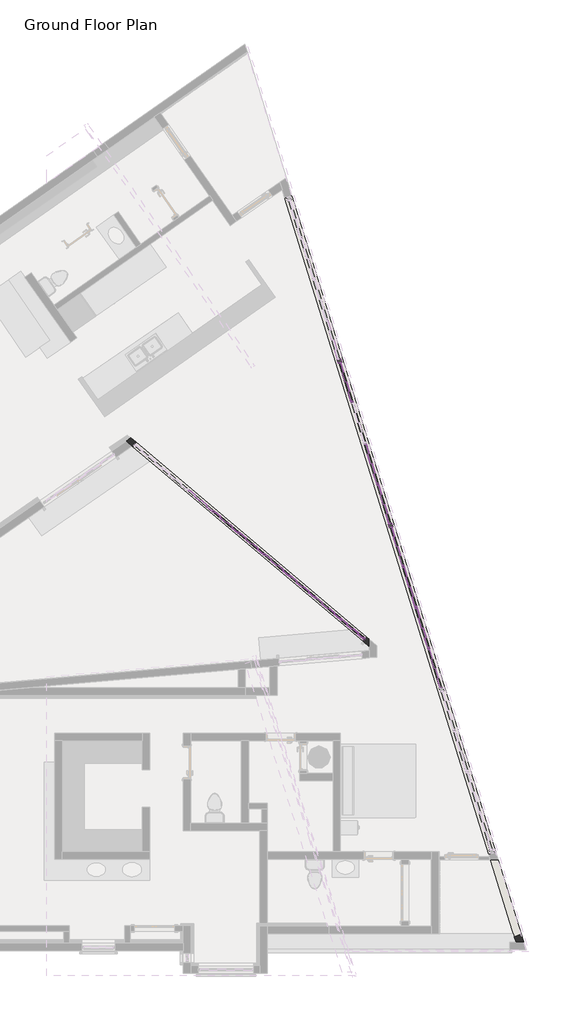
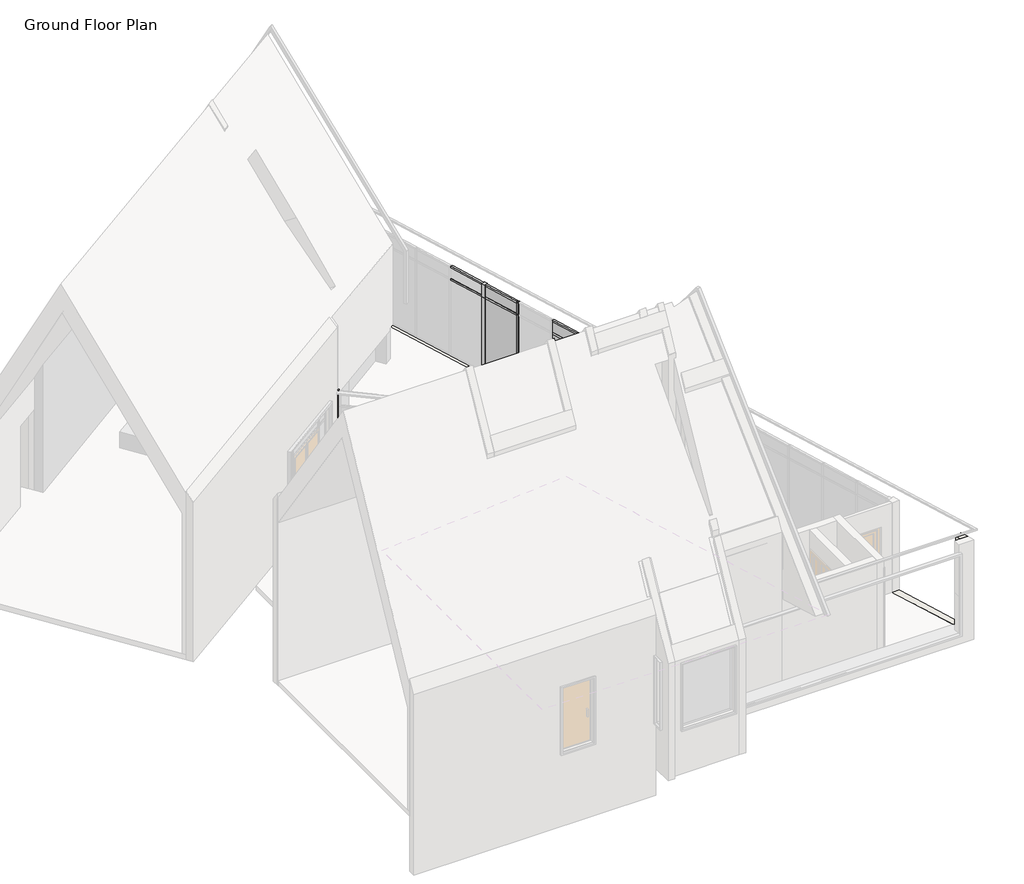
# One storey, part 4 of 5: 68 members, 25 plates, 2 walls.
"""IFC4 building model written with IfcOpenShell, lengths in millimetres."""

from ifc_helpers import new_model, si_unit, origin, place, context, project, spatial, faceted_brep, transform, mapped, element, save
from components import rectangular_mullion_50x150mm_d6dec429, rectangular_mullion_50x150mm_72788f02, rectangular_mullion_50x150mm_c05da0b8, rectangular_mullion_50x150mm_10119c83, rectangular_mullion_50x150mm_9b9afa98, rectangular_mullion_50x150mm_3dc05bec, rectangular_mullion_50x150mm_ea022c74, rectangular_mullion_50x150mm_d233cf5f, rectangular_mullion_50x150mm_e39ed394, rectangular_mullion_50x150mm_ed4077da, rectangular_mullion_50x150mm_51ed58aa, rectangular_mullion_50x150mm_58209b6d, rectangular_mullion_50x150mm_e022757b, rectangular_mullion_50x150mm_c4750289, rectangular_mullion_50x150mm_facade_da269e3a, rectangular_mullion_50x150mm_facade_010fe28e, system_panel_glazed_c5d443fe, system_panel_glazed_77f98377, system_panel_glazed_4f0944f6, system_panel_glazed_4c64ceed, system_panel_glazed_2_529b0a8b, system_panel_glazed_2_c75f6443, system_panel_opaque_e4a811f1, system_panel_opaque_66f26a5c

model = new_model("IFC4")

# Units and contexts
model_context = context("Model", 3, world=origin())
ifc_project = project(units=[si_unit("LENGTHUNIT", "METRE", prefix="MILLI")], contexts=[model_context])

# Site, building, storey
site = spatial("IfcSite", under=ifc_project)
building = spatial("IfcBuilding", under=site)
storey = spatial("IfcBuildingStorey", under=building, Name="Ground Floor Plan", Elevation=0.0)

# Members
placement = place(None, origin())
rectangular_mullion_50x150mm_shape = rectangular_mullion_50x150mm_d6dec429(model_context)
element("IfcMember", 1, ObjectType="Rectangular Mullion : 50x150mm", at=placement, inside=storey, context=model_context, shape_type="MappedRepresentation", body=[
    mapped(rectangular_mullion_50x150mm_shape, transform((5708.9394713, 4886.6123737, 150.0), x_axis=(0.0, 0.0, -1.0), y_axis=(-0.9549692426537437, -0.29670481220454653, 0.0), z_axis=(-0.29670481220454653, 0.9549692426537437, 0.0))),
])
element("IfcMember", 2, ObjectType="Rectangular Mullion : 50x150mm", at=placement, inside=storey, context=model_context, shape_type="MappedRepresentation", body=[
    mapped(rectangular_mullion_50x150mm_shape, transform((3990.3466762, 10418.0469595, 150.0), x_axis=(0.0, 0.0, -1.0), y_axis=(-0.9549692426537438, -0.2967048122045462, 0.0), z_axis=(-0.2967048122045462, 0.9549692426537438, 0.0))),
])
element("IfcMember", 3, ObjectType="Rectangular Mullion : 50x150mm", at=placement, inside=storey, context=model_context, shape_type="MappedRepresentation", body=[
    mapped(rectangular_mullion_50x150mm_shape, transform((5365.2209123, 5992.8992909, 150.0), x_axis=(0.0, 0.0, -1.0), y_axis=(-0.9549692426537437, -0.29670481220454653, 0.0), z_axis=(-0.29670481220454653, 0.9549692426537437, 0.0))),
])
rectangular_mullion_50x150mm_2_shape = rectangular_mullion_50x150mm_72788f02(model_context)
element("IfcMember", 4, ObjectType="Rectangular Mullion : 50x150mm", at=placement, inside=storey, context=model_context, shape_type="MappedRepresentation", body=[
    mapped(rectangular_mullion_50x150mm_2_shape, transform((5701.521851, 4910.4866048, 150.0), x_axis=(0.2967048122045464, -0.9549692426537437, 0.0), y_axis=(-0.9549692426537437, -0.2967048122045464, 0.0), z_axis=(0.0, 0.0, -1.0))),
])
element("IfcMember", 5, ObjectType="Rectangular Mullion : 50x150mm", at=placement, inside=storey, context=model_context, shape_type="MappedRepresentation", body=[
    mapped(rectangular_mullion_50x150mm_2_shape, transform((3982.9290559, 10441.9211906, 150.0), x_axis=(0.2967048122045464, -0.9549692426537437, 0.0), y_axis=(-0.9549692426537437, -0.2967048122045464, 0.0), z_axis=(0.0, 0.0, -1.0))),
])
element("IfcMember", 6, ObjectType="Rectangular Mullion : 50x150mm", at=placement, inside=storey, context=model_context, shape_type="MappedRepresentation", body=[
    mapped(rectangular_mullion_50x150mm_2_shape, transform((4670.3661739, 8229.3473563, 150.0), x_axis=(0.2967048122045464, -0.9549692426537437, 0.0), y_axis=(-0.9549692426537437, -0.2967048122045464, 0.0), z_axis=(0.0, 0.0, -1.0))),
])
element("IfcMember", 7, ObjectType="Rectangular Mullion : 50x150mm", at=placement, inside=storey, context=model_context, shape_type="MappedRepresentation", body=[
    mapped(rectangular_mullion_50x150mm_2_shape, transform((5357.803292, 6016.7735219, 150.0), x_axis=(0.2967048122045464, -0.9549692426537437, 0.0), y_axis=(-0.9549692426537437, -0.2967048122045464, 0.0), z_axis=(0.0, 0.0, -1.0))),
])
rectangular_mullion_50x150mm_3_shape = rectangular_mullion_50x150mm_c05da0b8(model_context)
element("IfcMember", 8, ObjectType="Rectangular Mullion : 50x150mm", at=placement, inside=storey, context=model_context, shape_type="MappedRepresentation", body=[
    mapped(rectangular_mullion_50x150mm_3_shape, transform((265.2722681, 7481.1192745, 150.0), x_axis=(0.0, 0.0, -1.0), y_axis=(-0.6453696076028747, -0.7638704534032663, 0.0), z_axis=(-0.7638704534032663, 0.6453696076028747, 0.0))),
])
element("IfcMember", 9, ObjectType="Rectangular Mullion : 50x150mm", at=placement, inside=storey, context=model_context, shape_type="MappedRepresentation", body=[
    mapped(rectangular_mullion_50x150mm_3_shape, transform((952.7556762, 6900.2866277, 150.0), x_axis=(0.0, 0.0, -1.0), y_axis=(-0.6453696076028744, -0.7638704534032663, 0.0), z_axis=(-0.7638704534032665, 0.6453696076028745, 0.0))),
])
element("IfcMember", 10, ObjectType="Rectangular Mullion : 50x150mm", at=placement, inside=storey, context=model_context, shape_type="MappedRepresentation", body=[
    mapped(rectangular_mullion_50x150mm_3_shape, transform((1640.2390842, 6319.4539808, 150.0), x_axis=(0.0, 0.0, -1.0), y_axis=(-0.6453696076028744, -0.7638704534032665, 0.0), z_axis=(-0.7638704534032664, 0.6453696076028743, 0.0))),
])
element("IfcMember", 11, ObjectType="Rectangular Mullion : 50x150mm", at=placement, inside=storey, context=model_context, shape_type="MappedRepresentation", body=[
    mapped(rectangular_mullion_50x150mm_3_shape, transform((2327.7224923, 5738.621334, 150.0), x_axis=(0.0, 0.0, -1.0), y_axis=(-0.6453696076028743, -0.7638704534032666, 0.0), z_axis=(-0.7638704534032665, 0.6453696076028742, 0.0))),
])
element("IfcMember", 12, ObjectType="Rectangular Mullion : 50x150mm", at=placement, inside=storey, context=model_context, shape_type="MappedRepresentation", body=[
    mapped(rectangular_mullion_50x150mm_3_shape, transform((3015.2059004, 5157.7886871, 150.0), x_axis=(0.0, 0.0, -1.0), y_axis=(-0.6453696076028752, -0.7638704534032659, 0.0), z_axis=(-0.7638704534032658, 0.6453696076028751, 0.0))),
])
rectangular_mullion_50x150mm_4_shape = rectangular_mullion_50x150mm_10119c83(model_context)
element("IfcMember", 13, ObjectType="Rectangular Mullion : 50x150mm", at=placement, inside=storey, context=model_context, shape_type="MappedRepresentation", body=[
    mapped(rectangular_mullion_50x150mm_4_shape, transform((3702.6893084, 4576.9560403, 150.0), x_axis=(0.0, 0.0, -1.0), y_axis=(-0.6453696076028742, -0.7638704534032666, 0.0), z_axis=(-0.7638704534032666, 0.6453696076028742, 0.0))),
])
rectangular_mullion_50x150mm_5_shape = rectangular_mullion_50x150mm_9b9afa98(model_context)
element("IfcMember", 14, ObjectType="Rectangular Mullion : 50x150mm", at=placement, inside=storey, context=model_context, shape_type="MappedRepresentation", body=[
    mapped(rectangular_mullion_50x150mm_5_shape, transform((246.1755068, 7497.2535147, 150.0), x_axis=(0.7638704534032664, -0.6453696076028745, 0.0), y_axis=(-0.6453696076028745, -0.7638704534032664, 0.0), z_axis=(0.0, 0.0, -1.0))),
])
element("IfcMember", 15, ObjectType="Rectangular Mullion : 50x150mm", at=placement, inside=storey, context=model_context, shape_type="MappedRepresentation", body=[
    mapped(rectangular_mullion_50x150mm_5_shape, transform((933.6589148, 6916.4208678, 150.0), x_axis=(0.7638704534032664, -0.6453696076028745, 0.0), y_axis=(-0.6453696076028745, -0.7638704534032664, 0.0), z_axis=(0.0, 0.0, -1.0))),
])
element("IfcMember", 16, ObjectType="Rectangular Mullion : 50x150mm", at=placement, inside=storey, context=model_context, shape_type="MappedRepresentation", body=[
    mapped(rectangular_mullion_50x150mm_5_shape, transform((1621.1423229, 6335.588221, 150.0), x_axis=(0.7638704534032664, -0.6453696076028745, 0.0), y_axis=(-0.6453696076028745, -0.7638704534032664, 0.0), z_axis=(0.0, 0.0, -1.0))),
])
element("IfcMember", 17, ObjectType="Rectangular Mullion : 50x150mm", at=placement, inside=storey, context=model_context, shape_type="MappedRepresentation", body=[
    mapped(rectangular_mullion_50x150mm_5_shape, transform((2308.625731, 5754.7555742, 150.0), x_axis=(0.7638704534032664, -0.6453696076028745, 0.0), y_axis=(-0.6453696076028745, -0.7638704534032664, 0.0), z_axis=(0.0, 0.0, -1.0))),
])
element("IfcMember", 18, ObjectType="Rectangular Mullion : 50x150mm", at=placement, inside=storey, context=model_context, shape_type="MappedRepresentation", body=[
    mapped(rectangular_mullion_50x150mm_5_shape, transform((2996.109139, 5173.9229273, 150.0), x_axis=(0.7638704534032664, -0.6453696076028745, 0.0), y_axis=(-0.6453696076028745, -0.7638704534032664, 0.0), z_axis=(0.0, 0.0, -1.0))),
])
element("IfcMember", 19, ObjectType="Rectangular Mullion : 50x150mm", at=placement, inside=storey, context=model_context, shape_type="MappedRepresentation", body=[
    mapped(rectangular_mullion_50x150mm_5_shape, transform((3683.5925471, 4593.0902805, 150.0), x_axis=(0.7638704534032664, -0.6453696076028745, 0.0), y_axis=(-0.6453696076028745, -0.7638704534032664, 0.0), z_axis=(0.0, 0.0, -1.0))),
])
rectangular_mullion_50x150mm_6_shape = rectangular_mullion_50x150mm_3dc05bec(model_context)
element("IfcMember", 20, ObjectType="Rectangular Mullion : 50x150mm", at=placement, inside=storey, context=model_context, shape_type="MappedRepresentation", body=[
    mapped(rectangular_mullion_50x150mm_6_shape, transform((4325.2437279, 4050.9798101, 150.0), x_axis=(0.7638704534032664, -0.6453696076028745, 0.0), y_axis=(-0.6453696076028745, -0.7638704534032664, 0.0), z_axis=(0.0, 0.0, -1.0))),
])
rectangular_mullion_50x150mm_7_shape = rectangular_mullion_50x150mm_ea022c74(model_context)
element("IfcMember", 21, ObjectType="Rectangular Mullion : 50x150mm", at=placement, inside=storey, context=model_context, shape_type="MappedRepresentation", body=[
    mapped(rectangular_mullion_50x150mm_7_shape, transform((5028.9199736, 7075.311977, 150.0), x_axis=(0.0, 0.0, -1.0), y_axis=(-0.9549692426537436, -0.2967048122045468, 0.0), z_axis=(-0.2967048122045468, 0.9549692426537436, 0.0))),
])
element("IfcMember", 22, ObjectType="Rectangular Mullion : 50x150mm", at=placement, inside=storey, context=model_context, shape_type="MappedRepresentation", body=[
    mapped(rectangular_mullion_50x150mm_7_shape, transform((3654.0457375, 11500.4596456, 150.0), x_axis=(0.0, 0.0, -1.0), y_axis=(-0.9549692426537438, -0.29670481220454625, 0.0), z_axis=(-0.2967048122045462, 0.9549692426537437, 0.0))),
])
element("IfcMember", 23, ObjectType="Rectangular Mullion : 50x150mm", at=placement, inside=storey, context=model_context, shape_type="MappedRepresentation", body=[
    mapped(rectangular_mullion_50x150mm_7_shape, transform((4677.7837942, 8205.4731252, 150.0), x_axis=(0.0, 0.0, -1.0), y_axis=(-0.9549692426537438, -0.296704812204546, 0.0), z_axis=(-0.296704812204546, 0.9549692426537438, 0.0))),
])
element("IfcMember", 24, ObjectType="Rectangular Mullion : 50x150mm", at=placement, inside=storey, context=model_context, shape_type="MappedRepresentation", body=[
    mapped(rectangular_mullion_50x150mm_7_shape, transform((6052.6580303, 3780.3254565, 150.0), x_axis=(0.0, 0.0, -1.0), y_axis=(-0.9549692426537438, -0.29670481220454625, 0.0), z_axis=(-0.2967048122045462, 0.9549692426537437, 0.0))),
])
rectangular_mullion_50x150mm_8_shape = rectangular_mullion_50x150mm_d233cf5f(model_context)
element("IfcMember", 25, ObjectType="Rectangular Mullion : 50x150mm", at=placement, inside=storey, context=model_context, shape_type="MappedRepresentation", body=[
    mapped(rectangular_mullion_50x150mm_8_shape, transform((246.1755068, 7497.2535147, 2450.0), x_axis=(0.7638704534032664, -0.6453696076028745, 0.0), y_axis=(-0.6453696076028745, -0.7638704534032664, 0.0), z_axis=(0.0, 0.0, -1.0))),
])
element("IfcMember", 26, ObjectType="Rectangular Mullion : 50x150mm", at=placement, inside=storey, context=model_context, shape_type="MappedRepresentation", body=[
    mapped(rectangular_mullion_50x150mm_8_shape, transform((933.6589148, 6916.4208678, 2450.0), x_axis=(0.7638704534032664, -0.6453696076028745, 0.0), y_axis=(-0.6453696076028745, -0.7638704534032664, 0.0), z_axis=(0.0, 0.0, -1.0))),
])
element("IfcMember", 27, ObjectType="Rectangular Mullion : 50x150mm", at=placement, inside=storey, context=model_context, shape_type="MappedRepresentation", body=[
    mapped(rectangular_mullion_50x150mm_8_shape, transform((1621.1423229, 6335.588221, 2450.0), x_axis=(0.7638704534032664, -0.6453696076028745, 0.0), y_axis=(-0.6453696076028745, -0.7638704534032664, 0.0), z_axis=(0.0, 0.0, -1.0))),
])
element("IfcMember", 28, ObjectType="Rectangular Mullion : 50x150mm", at=placement, inside=storey, context=model_context, shape_type="MappedRepresentation", body=[
    mapped(rectangular_mullion_50x150mm_8_shape, transform((2308.625731, 5754.7555742, 2450.0), x_axis=(0.7638704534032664, -0.6453696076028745, 0.0), y_axis=(-0.6453696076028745, -0.7638704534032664, 0.0), z_axis=(0.0, 0.0, -1.0))),
])
element("IfcMember", 29, ObjectType="Rectangular Mullion : 50x150mm", at=placement, inside=storey, context=model_context, shape_type="MappedRepresentation", body=[
    mapped(rectangular_mullion_50x150mm_8_shape, transform((2996.109139, 5173.9229273, 2450.0), x_axis=(0.7638704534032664, -0.6453696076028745, 0.0), y_axis=(-0.6453696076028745, -0.7638704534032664, 0.0), z_axis=(0.0, 0.0, -1.0))),
])
element("IfcMember", 30, ObjectType="Rectangular Mullion : 50x150mm", at=placement, inside=storey, context=model_context, shape_type="MappedRepresentation", body=[
    mapped(rectangular_mullion_50x150mm_8_shape, transform((3683.5925471, 4593.0902805, 2450.0), x_axis=(0.7638704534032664, -0.6453696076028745, 0.0), y_axis=(-0.6453696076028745, -0.7638704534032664, 0.0), z_axis=(0.0, 0.0, -1.0))),
])
rectangular_mullion_50x150mm_9_shape = rectangular_mullion_50x150mm_e39ed394(model_context)
element("IfcMember", 31, ObjectType="Rectangular Mullion : 50x150mm", at=placement, inside=storey, context=model_context, shape_type="MappedRepresentation", body=[
    mapped(rectangular_mullion_50x150mm_9_shape, transform((4325.2437279, 4050.9798101, 2450.0), x_axis=(0.7638704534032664, -0.6453696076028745, 0.0), y_axis=(-0.6453696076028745, -0.7638704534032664, 0.0), z_axis=(0.0, 0.0, -1.0))),
])
rectangular_mullion_50x150mm_10_shape = rectangular_mullion_50x150mm_ed4077da(model_context)
element("IfcMember", 32, ObjectType="Rectangular Mullion : 50x150mm", at=placement, inside=storey, context=model_context, shape_type="MappedRepresentation", body=[
    mapped(rectangular_mullion_50x150mm_10_shape, transform((4287.0502053, 4083.2482905, 2450.0), x_axis=(0.0, 0.0, 1.0), y_axis=(-0.6453696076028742, -0.7638704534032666, 0.0), z_axis=(0.7638704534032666, -0.6453696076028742, 0.0))),
])
rectangular_mullion_50x150mm_11_shape = rectangular_mullion_50x150mm_51ed58aa(model_context)
element("IfcMember", 33, ObjectType="Rectangular Mullion : 50x150mm", at=placement, inside=storey, context=model_context, shape_type="MappedRepresentation", body=[
    mapped(rectangular_mullion_50x150mm_11_shape, transform((3664.4957858, 4609.2245207, 2450.0), x_axis=(0.0, 0.0, 1.0), y_axis=(-0.6453696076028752, -0.7638704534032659, 0.0), z_axis=(0.7638704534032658, -0.6453696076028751, 0.0))),
])
element("IfcMember", 34, ObjectType="Rectangular Mullion : 50x150mm", at=placement, inside=storey, context=model_context, shape_type="MappedRepresentation", body=[
    mapped(rectangular_mullion_50x150mm_11_shape, transform((2977.0123777, 5190.0571675, 2450.0), x_axis=(0.0, 0.0, 1.0), y_axis=(-0.6453696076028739, -0.763870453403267, 0.0), z_axis=(0.763870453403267, -0.6453696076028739, 0.0))),
])
element("IfcMember", 35, ObjectType="Rectangular Mullion : 50x150mm", at=placement, inside=storey, context=model_context, shape_type="MappedRepresentation", body=[
    mapped(rectangular_mullion_50x150mm_11_shape, transform((2289.5289696, 5770.8898144, 2450.0), x_axis=(0.0, 0.0, 1.0), y_axis=(-0.6453696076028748, -0.7638704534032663, 0.0), z_axis=(0.7638704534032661, -0.6453696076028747, 0.0))),
])
element("IfcMember", 36, ObjectType="Rectangular Mullion : 50x150mm", at=placement, inside=storey, context=model_context, shape_type="MappedRepresentation", body=[
    mapped(rectangular_mullion_50x150mm_11_shape, transform((1602.0455616, 6351.7224612, 2450.0), x_axis=(0.0, 0.0, 1.0), y_axis=(-0.6453696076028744, -0.7638704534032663, 0.0), z_axis=(0.7638704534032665, -0.6453696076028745, 0.0))),
])
element("IfcMember", 37, ObjectType="Rectangular Mullion : 50x150mm", at=placement, inside=storey, context=model_context, shape_type="MappedRepresentation", body=[
    mapped(rectangular_mullion_50x150mm_11_shape, transform((914.5621535, 6932.555108, 2450.0), x_axis=(0.0, 0.0, 1.0), y_axis=(-0.6453696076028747, -0.7638704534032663, 0.0), z_axis=(0.7638704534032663, -0.6453696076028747, 0.0))),
])
element("IfcMember", 38, ObjectType="Rectangular Mullion : 50x150mm", at=placement, inside=storey, context=model_context, shape_type="MappedRepresentation", body=[
    mapped(rectangular_mullion_50x150mm_11_shape, transform((227.0787454, 7513.3877549, 2450.0), x_axis=(0.0, 0.0, 1.0), y_axis=(-0.6453696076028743, -0.7638704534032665, 0.0), z_axis=(0.7638704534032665, -0.6453696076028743, 0.0))),
])
element("IfcMember", 39, ObjectType="Rectangular Mullion : 50x150mm", at=placement, inside=storey, context=model_context, shape_type="MappedRepresentation", body=[
    mapped(rectangular_mullion_50x150mm_7_shape, transform((4999.2494923, 7170.8089012, 2900.0), x_axis=(0.0, 0.0, 1.0), y_axis=(-0.9549692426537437, -0.2967048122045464, 0.0), z_axis=(0.2967048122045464, -0.9549692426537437, 0.0))),
])
element("IfcMember", 40, ObjectType="Rectangular Mullion : 50x150mm", at=placement, inside=storey, context=model_context, shape_type="MappedRepresentation", body=[
    mapped(rectangular_mullion_50x150mm_7_shape, transform((3624.3752562, 11595.9565699, 2900.0), x_axis=(0.0, 0.0, 1.0), y_axis=(-0.9549692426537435, -0.2967048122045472, 0.0), z_axis=(0.29670481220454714, -0.9549692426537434, 0.0))),
])
element("IfcMember", 41, ObjectType="Rectangular Mullion : 50x150mm", at=placement, inside=storey, context=model_context, shape_type="MappedRepresentation", body=[
    mapped(rectangular_mullion_50x150mm_shape, transform((5694.1042307, 4934.3608358, 2900.0), x_axis=(0.0, 0.0, 1.0), y_axis=(-0.9549692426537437, -0.29670481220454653, 0.0), z_axis=(0.29670481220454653, -0.9549692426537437, 0.0))),
])
element("IfcMember", 42, ObjectType="Rectangular Mullion : 50x150mm", at=placement, inside=storey, context=model_context, shape_type="MappedRepresentation", body=[
    mapped(rectangular_mullion_50x150mm_shape, transform((4662.9485536, 8253.2215873, 2900.0), x_axis=(0.0, 0.0, 1.0), y_axis=(-0.9549692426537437, -0.2967048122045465, 0.0), z_axis=(0.2967048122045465, -0.9549692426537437, 0.0))),
])
element("IfcMember", 43, ObjectType="Rectangular Mullion : 50x150mm", at=placement, inside=storey, context=model_context, shape_type="MappedRepresentation", body=[
    mapped(rectangular_mullion_50x150mm_shape, transform((6037.8227897, 3828.0739187, 2900.0), x_axis=(0.0, 0.0, 1.0), y_axis=(-0.9549692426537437, -0.29670481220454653, 0.0), z_axis=(0.29670481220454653, -0.9549692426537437, 0.0))),
])
element("IfcMember", 44, ObjectType="Rectangular Mullion : 50x150mm", at=placement, inside=storey, context=model_context, shape_type="MappedRepresentation", body=[
    mapped(rectangular_mullion_50x150mm_7_shape, transform((3975.5114356, 10465.7954216, 2900.0), x_axis=(0.0, 0.0, 1.0), y_axis=(-0.9549692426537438, -0.29670481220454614, 0.0), z_axis=(0.29670481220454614, -0.9549692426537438, 0.0))),
])
element("IfcMember", 45, ObjectType="Rectangular Mullion : 50x150mm", at=placement, inside=storey, context=model_context, shape_type="MappedRepresentation", body=[
    mapped(rectangular_mullion_50x150mm_7_shape, transform((5350.3856717, 6040.647753, 2900.0), x_axis=(0.0, 0.0, 1.0), y_axis=(-0.9549692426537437, -0.29670481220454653, 0.0), z_axis=(0.29670481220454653, -0.9549692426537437, 0.0))),
])
rectangular_mullion_50x150mm_12_shape = rectangular_mullion_50x150mm_58209b6d(model_context)
element("IfcMember", 46, ObjectType="Rectangular Mullion : 50x150mm", at=placement, inside=storey, context=model_context, shape_type="MappedRepresentation", body=[
    mapped(rectangular_mullion_50x150mm_12_shape, transform((5701.521851, 4910.4866048, 2500.0), x_axis=(0.2967048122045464, -0.9549692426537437, 0.0), y_axis=(-0.9549692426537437, -0.2967048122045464, 0.0), z_axis=(0.0, 0.0, -1.0))),
])
element("IfcMember", 47, ObjectType="Rectangular Mullion : 50x150mm", at=placement, inside=storey, context=model_context, shape_type="MappedRepresentation", body=[
    mapped(rectangular_mullion_50x150mm_12_shape, transform((3982.9290559, 10441.9211906, 2500.0), x_axis=(0.2967048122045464, -0.9549692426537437, 0.0), y_axis=(-0.9549692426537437, -0.2967048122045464, 0.0), z_axis=(0.0, 0.0, -1.0))),
])
element("IfcMember", 48, ObjectType="Rectangular Mullion : 50x150mm", at=placement, inside=storey, context=model_context, shape_type="MappedRepresentation", body=[
    mapped(rectangular_mullion_50x150mm_12_shape, transform((4670.3661739, 8229.3473563, 2500.0), x_axis=(0.2967048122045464, -0.9549692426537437, 0.0), y_axis=(-0.9549692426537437, -0.2967048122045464, 0.0), z_axis=(0.0, 0.0, -1.0))),
])
element("IfcMember", 49, ObjectType="Rectangular Mullion : 50x150mm", at=placement, inside=storey, context=model_context, shape_type="MappedRepresentation", body=[
    mapped(rectangular_mullion_50x150mm_12_shape, transform((5357.803292, 6016.7735219, 2500.0), x_axis=(0.2967048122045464, -0.9549692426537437, 0.0), y_axis=(-0.9549692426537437, -0.2967048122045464, 0.0), z_axis=(0.0, 0.0, -1.0))),
])
element("IfcMember", 50, ObjectType="Rectangular Mullion : 50x150mm", at=placement, inside=storey, context=model_context, shape_type="MappedRepresentation", body=[
    mapped(rectangular_mullion_50x150mm_12_shape, transform((6045.24041, 3804.1996876, 2500.0), x_axis=(0.2967048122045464, -0.9549692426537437, 0.0), y_axis=(-0.9549692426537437, -0.2967048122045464, 0.0), z_axis=(0.0, 0.0, -1.0))),
])
rectangular_mullion_50x150mm_13_shape = rectangular_mullion_50x150mm_e022757b(model_context)
element("IfcMember", 51, ObjectType="Rectangular Mullion : 50x150mm", at=placement, inside=storey, context=model_context, shape_type="MappedRepresentation", body=[
    mapped(rectangular_mullion_50x150mm_13_shape, transform((5694.1042307, 4934.3608358, 2500.0), x_axis=(0.0, 0.0, 1.0), y_axis=(-0.9549692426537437, -0.29670481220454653, 0.0), z_axis=(0.29670481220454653, -0.9549692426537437, 0.0))),
])
element("IfcMember", 52, ObjectType="Rectangular Mullion : 50x150mm", at=placement, inside=storey, context=model_context, shape_type="MappedRepresentation", body=[
    mapped(rectangular_mullion_50x150mm_13_shape, transform((6037.8227897, 3828.0739187, 2500.0), x_axis=(0.0, 0.0, 1.0), y_axis=(-0.9549692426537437, -0.29670481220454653, 0.0), z_axis=(0.29670481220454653, -0.9549692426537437, 0.0))),
])
element("IfcMember", 53, ObjectType="Rectangular Mullion : 50x150mm", at=placement, inside=storey, context=model_context, shape_type="MappedRepresentation", body=[
    mapped(rectangular_mullion_50x150mm_13_shape, transform((4662.9485536, 8253.2215873, 2500.0), x_axis=(0.0, 0.0, 1.0), y_axis=(-0.9549692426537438, -0.29670481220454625, 0.0), z_axis=(0.2967048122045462, -0.9549692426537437, 0.0))),
])
rectangular_mullion_50x150mm_14_shape = rectangular_mullion_50x150mm_c4750289(model_context)
element("IfcMember", 54, ObjectType="Rectangular Mullion : 50x150mm", at=placement, inside=storey, context=model_context, shape_type="MappedRepresentation", body=[
    mapped(rectangular_mullion_50x150mm_14_shape, transform((4999.2494923, 7170.8089012, 2500.0), x_axis=(0.0, 0.0, 1.0), y_axis=(-0.9549692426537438, -0.2967048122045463, 0.0), z_axis=(0.29670481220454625, -0.9549692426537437, 0.0))),
])
element("IfcMember", 55, ObjectType="Rectangular Mullion : 50x150mm", at=placement, inside=storey, context=model_context, shape_type="MappedRepresentation", body=[
    mapped(rectangular_mullion_50x150mm_14_shape, transform((3624.3752562, 11595.9565699, 2500.0), x_axis=(0.0, 0.0, 1.0), y_axis=(-0.9549692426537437, -0.29670481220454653, 0.0), z_axis=(0.29670481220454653, -0.9549692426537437, 0.0))),
])
element("IfcMember", 56, ObjectType="Rectangular Mullion : 50x150mm", at=placement, inside=storey, context=model_context, shape_type="MappedRepresentation", body=[
    mapped(rectangular_mullion_50x150mm_14_shape, transform((3975.5114356, 10465.7954216, 2500.0), x_axis=(0.0, 0.0, 1.0), y_axis=(-0.9549692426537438, -0.29670481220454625, 0.0), z_axis=(0.2967048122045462, -0.9549692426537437, 0.0))),
])
element("IfcMember", 57, ObjectType="Rectangular Mullion : 50x150mm", at=placement, inside=storey, context=model_context, shape_type="MappedRepresentation", body=[
    mapped(rectangular_mullion_50x150mm_14_shape, transform((5350.3856717, 6040.647753, 2500.0), x_axis=(0.0, 0.0, 1.0), y_axis=(-0.9549692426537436, -0.2967048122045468, 0.0), z_axis=(0.2967048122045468, -0.9549692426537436, 0.0))),
])
element("IfcMember", 58, ObjectType="Rectangular Mullion : 50x150mm", at=placement, inside=storey, context=model_context, shape_type="MappedRepresentation", body=[
    mapped(rectangular_mullion_50x150mm_3_shape, transform((3664.4957858, 4609.2245207, 2900.0), x_axis=(0.0, 0.0, 1.0), y_axis=(-0.6453696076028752, -0.7638704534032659, 0.0), z_axis=(0.7638704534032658, -0.6453696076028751, 0.0))),
])
element("IfcMember", 59, ObjectType="Rectangular Mullion : 50x150mm", at=placement, inside=storey, context=model_context, shape_type="MappedRepresentation", body=[
    mapped(rectangular_mullion_50x150mm_3_shape, transform((2977.0123777, 5190.0571675, 2900.0), x_axis=(0.0, 0.0, 1.0), y_axis=(-0.6453696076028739, -0.763870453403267, 0.0), z_axis=(0.763870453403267, -0.6453696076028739, 0.0))),
])
element("IfcMember", 60, ObjectType="Rectangular Mullion : 50x150mm", at=placement, inside=storey, context=model_context, shape_type="MappedRepresentation", body=[
    mapped(rectangular_mullion_50x150mm_3_shape, transform((2289.5289696, 5770.8898144, 2900.0), x_axis=(0.0, 0.0, 1.0), y_axis=(-0.6453696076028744, -0.7638704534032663, 0.0), z_axis=(0.7638704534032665, -0.6453696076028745, 0.0))),
])
element("IfcMember", 61, ObjectType="Rectangular Mullion : 50x150mm", at=placement, inside=storey, context=model_context, shape_type="MappedRepresentation", body=[
    mapped(rectangular_mullion_50x150mm_3_shape, transform((1602.0455616, 6351.7224612, 2900.0), x_axis=(0.0, 0.0, 1.0), y_axis=(-0.6453696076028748, -0.7638704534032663, 0.0), z_axis=(0.7638704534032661, -0.6453696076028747, 0.0))),
])
element("IfcMember", 62, ObjectType="Rectangular Mullion : 50x150mm", at=placement, inside=storey, context=model_context, shape_type="MappedRepresentation", body=[
    mapped(rectangular_mullion_50x150mm_3_shape, transform((914.5621535, 6932.555108, 2900.0), x_axis=(0.0, 0.0, 1.0), y_axis=(-0.6453696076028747, -0.7638704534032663, 0.0), z_axis=(0.7638704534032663, -0.6453696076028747, 0.0))),
])
element("IfcMember", 63, ObjectType="Rectangular Mullion : 50x150mm", at=placement, inside=storey, context=model_context, shape_type="MappedRepresentation", body=[
    mapped(rectangular_mullion_50x150mm_3_shape, transform((227.0787454, 7513.3877549, 2900.0), x_axis=(0.0, 0.0, 1.0), y_axis=(-0.6453696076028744, -0.7638704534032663, 0.0), z_axis=(0.7638704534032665, -0.6453696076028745, 0.0))),
])
element("IfcMember", 64, ObjectType="Rectangular Mullion : 50x150mm", at=placement, inside=storey, context=model_context, shape_type="MappedRepresentation", body=[
    mapped(rectangular_mullion_50x150mm_4_shape, transform((4287.0502053, 4083.2482905, 2900.0), x_axis=(0.0, 0.0, 1.0), y_axis=(-0.6453696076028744, -0.7638704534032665, 0.0), z_axis=(0.7638704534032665, -0.6453696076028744, 0.0))),
])
rectangular_mullion_50x150mm_facade_shape = rectangular_mullion_50x150mm_facade_da269e3a(model_context)
element("IfcMember", 65, ObjectType="Rectangular Mullion : 50x150mm Facade", at=placement, inside=storey, context=model_context, shape_type="MappedRepresentation", body=[
    mapped(rectangular_mullion_50x150mm_facade_shape, transform((5014.084733, 7123.0604391, 150.0), x_axis=(0.2967048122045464, -0.9549692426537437, 0.0), y_axis=(-0.9549692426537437, -0.2967048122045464, 0.0), z_axis=(0.0, 0.0, -1.0))),
])
element("IfcMember", 66, ObjectType="Rectangular Mullion : 50x150mm Facade", at=placement, inside=storey, context=model_context, shape_type="MappedRepresentation", body=[
    mapped(rectangular_mullion_50x150mm_facade_shape, transform((3639.2104968, 11548.2081077, 150.0), x_axis=(0.2967048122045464, -0.9549692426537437, 0.0), y_axis=(-0.9549692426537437, -0.2967048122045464, 0.0), z_axis=(0.0, 0.0, -1.0))),
])
rectangular_mullion_50x150mm_facade_2_shape = rectangular_mullion_50x150mm_facade_010fe28e(model_context)
element("IfcMember", 67, ObjectType="Rectangular Mullion : 50x150mm Facade", at=placement, inside=storey, context=model_context, shape_type="MappedRepresentation", body=[
    mapped(rectangular_mullion_50x150mm_facade_2_shape, transform((5014.084733, 7123.0604391, 2500.0), x_axis=(0.2967048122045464, -0.9549692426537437, 0.0), y_axis=(-0.9549692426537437, -0.2967048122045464, 0.0), z_axis=(0.0, 0.0, -1.0))),
])
element("IfcMember", 68, ObjectType="Rectangular Mullion : 50x150mm Facade", at=placement, inside=storey, context=model_context, shape_type="MappedRepresentation", body=[
    mapped(rectangular_mullion_50x150mm_facade_2_shape, transform((3639.2104968, 11548.2081077, 2500.0), x_axis=(0.2967048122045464, -0.9549692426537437, 0.0), y_axis=(-0.9549692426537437, -0.2967048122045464, 0.0), z_axis=(0.0, 0.0, -1.0))),
])

# Plates
system_panel_glazed_shape = system_panel_glazed_c5d443fe(model_context)
element("IfcPlate", 69, ObjectType="System Panel : Glazed", at=placement, inside=storey, context=model_context, shape_type="MappedRepresentation", body=[
    mapped(system_panel_glazed_shape, transform((5189.6528226, 6557.979865, 200.0), x_axis=(0.2967048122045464, -0.9549692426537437, 0.0), y_axis=(0.9549692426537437, 0.2967048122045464, 0.0), z_axis=(0.0, 0.0, 1.0))),
])
element("IfcPlate", 70, ObjectType="System Panel : Glazed", at=placement, inside=storey, context=model_context, shape_type="MappedRepresentation", body=[
    mapped(system_panel_glazed_shape, transform((3814.7785865, 10983.1275336, 200.0), x_axis=(0.2967048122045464, -0.9549692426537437, 0.0), y_axis=(0.9549692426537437, 0.2967048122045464, 0.0), z_axis=(0.0, 0.0, 1.0))),
])
element("IfcPlate", 71, ObjectType="System Panel : Glazed", at=placement, inside=storey, context=model_context, shape_type="MappedRepresentation", body=[
    mapped(system_panel_glazed_shape, transform((4838.5166433, 7688.1410132, 200.0), x_axis=(0.2967048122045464, -0.9549692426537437, 0.0), y_axis=(0.9549692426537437, 0.2967048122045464, 0.0), z_axis=(0.0, 0.0, 1.0))),
])
system_panel_glazed_2_shape = system_panel_glazed_77f98377(model_context)
element("IfcPlate", 72, ObjectType="System Panel : Glazed", at=placement, inside=storey, context=model_context, shape_type="MappedRepresentation", body=[
    mapped(system_panel_glazed_2_shape, transform((4498.5068944, 8782.4908148, 200.0), x_axis=(0.2967048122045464, -0.9549692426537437, 0.0), y_axis=(0.9549692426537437, 0.2967048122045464, 0.0), z_axis=(0.0, 0.0, 1.0))),
])
element("IfcPlate", 73, ObjectType="System Panel : Glazed", at=placement, inside=storey, context=model_context, shape_type="MappedRepresentation", body=[
    mapped(system_panel_glazed_2_shape, transform((5873.3811305, 4357.3431462, 200.0), x_axis=(0.2967048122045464, -0.9549692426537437, 0.0), y_axis=(0.9549692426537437, 0.2967048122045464, 0.0), z_axis=(0.0, 0.0, 1.0))),
])
element("IfcPlate", 74, ObjectType="System Panel : Glazed", at=placement, inside=storey, context=model_context, shape_type="MappedRepresentation", body=[
    mapped(system_panel_glazed_2_shape, transform((5529.6625715, 5463.6300634, 200.0), x_axis=(0.2967048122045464, -0.9549692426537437, 0.0), y_axis=(0.9549692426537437, 0.2967048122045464, 0.0), z_axis=(0.0, 0.0, 1.0))),
])
system_panel_glazed_3_shape = system_panel_glazed_4f0944f6(model_context)
element("IfcPlate", 75, ObjectType="System Panel : Glazed", at=placement, inside=storey, context=model_context, shape_type="MappedRepresentation", body=[
    mapped(system_panel_glazed_3_shape, transform((589.9172108, 7206.8371913, 200.0), x_axis=(0.7638704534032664, -0.6453696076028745, 0.0), y_axis=(0.6453696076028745, 0.7638704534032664, 0.0), z_axis=(0.0, 0.0, 1.0))),
])
element("IfcPlate", 76, ObjectType="System Panel : Glazed", at=placement, inside=storey, context=model_context, shape_type="MappedRepresentation", body=[
    mapped(system_panel_glazed_3_shape, transform((1277.4006189, 6626.0045444, 200.0), x_axis=(0.7638704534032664, -0.6453696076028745, 0.0), y_axis=(0.6453696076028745, 0.7638704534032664, 0.0), z_axis=(0.0, 0.0, 1.0))),
])
element("IfcPlate", 77, ObjectType="System Panel : Glazed", at=placement, inside=storey, context=model_context, shape_type="MappedRepresentation", body=[
    mapped(system_panel_glazed_3_shape, transform((1964.8840269, 6045.1718976, 200.0), x_axis=(0.7638704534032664, -0.6453696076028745, 0.0), y_axis=(0.6453696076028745, 0.7638704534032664, 0.0), z_axis=(0.0, 0.0, 1.0))),
])
element("IfcPlate", 78, ObjectType="System Panel : Glazed", at=placement, inside=storey, context=model_context, shape_type="MappedRepresentation", body=[
    mapped(system_panel_glazed_3_shape, transform((2652.367435, 5464.3392507, 200.0), x_axis=(0.7638704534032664, -0.6453696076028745, 0.0), y_axis=(0.6453696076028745, 0.7638704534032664, 0.0), z_axis=(0.0, 0.0, 1.0))),
])
element("IfcPlate", 79, ObjectType="System Panel : Glazed", at=placement, inside=storey, context=model_context, shape_type="MappedRepresentation", body=[
    mapped(system_panel_glazed_3_shape, transform((3339.8508431, 4883.5066039, 200.0), x_axis=(0.7638704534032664, -0.6453696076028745, 0.0), y_axis=(0.6453696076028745, 0.7638704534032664, 0.0), z_axis=(0.0, 0.0, 1.0))),
])
system_panel_glazed_4_shape = system_panel_glazed_4c64ceed(model_context)
element("IfcPlate", 80, ObjectType="System Panel : Glazed", at=placement, inside=storey, context=model_context, shape_type="MappedRepresentation", body=[
    mapped(system_panel_glazed_4_shape, transform((3994.8697569, 4330.1021654, 200.0), x_axis=(0.7638704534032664, -0.6453696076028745, 0.0), y_axis=(0.6453696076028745, 0.7638704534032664, 0.0), z_axis=(0.0, 0.0, 1.0))),
])
system_panel_glazed_2_2_shape = system_panel_glazed_2_529b0a8b(model_context)
element("IfcPlate", 81, ObjectType="System Panel : Glazed 2", at=placement, inside=storey, context=model_context, shape_type="MappedRepresentation", body=[
    mapped(system_panel_glazed_2_2_shape, transform((589.9172108, 7206.8371913, 2475.0), x_axis=(0.7638704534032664, -0.6453696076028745, 0.0), y_axis=(0.6453696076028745, 0.7638704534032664, 0.0), z_axis=(0.0, 0.0, 1.0))),
])
element("IfcPlate", 82, ObjectType="System Panel : Glazed 2", at=placement, inside=storey, context=model_context, shape_type="MappedRepresentation", body=[
    mapped(system_panel_glazed_2_2_shape, transform((1277.4006189, 6626.0045444, 2475.0), x_axis=(0.7638704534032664, -0.6453696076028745, 0.0), y_axis=(0.6453696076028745, 0.7638704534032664, 0.0), z_axis=(0.0, 0.0, 1.0))),
])
element("IfcPlate", 83, ObjectType="System Panel : Glazed 2", at=placement, inside=storey, context=model_context, shape_type="MappedRepresentation", body=[
    mapped(system_panel_glazed_2_2_shape, transform((1964.8840269, 6045.1718976, 2475.0), x_axis=(0.7638704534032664, -0.6453696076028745, 0.0), y_axis=(0.6453696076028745, 0.7638704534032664, 0.0), z_axis=(0.0, 0.0, 1.0))),
])
element("IfcPlate", 84, ObjectType="System Panel : Glazed 2", at=placement, inside=storey, context=model_context, shape_type="MappedRepresentation", body=[
    mapped(system_panel_glazed_2_2_shape, transform((2652.367435, 5464.3392507, 2475.0), x_axis=(0.7638704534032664, -0.6453696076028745, 0.0), y_axis=(0.6453696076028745, 0.7638704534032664, 0.0), z_axis=(0.0, 0.0, 1.0))),
])
element("IfcPlate", 85, ObjectType="System Panel : Glazed 2", at=placement, inside=storey, context=model_context, shape_type="MappedRepresentation", body=[
    mapped(system_panel_glazed_2_2_shape, transform((3339.8508431, 4883.5066039, 2475.0), x_axis=(0.7638704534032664, -0.6453696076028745, 0.0), y_axis=(0.6453696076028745, 0.7638704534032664, 0.0), z_axis=(0.0, 0.0, 1.0))),
])
system_panel_glazed_2_3_shape = system_panel_glazed_2_c75f6443(model_context)
element("IfcPlate", 86, ObjectType="System Panel : Glazed 2", at=placement, inside=storey, context=model_context, shape_type="MappedRepresentation", body=[
    mapped(system_panel_glazed_2_3_shape, transform((3994.8697569, 4330.1021654, 2475.0), x_axis=(0.7638704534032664, -0.6453696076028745, 0.0), y_axis=(0.6453696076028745, 0.7638704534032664, 0.0), z_axis=(0.0, 0.0, 1.0))),
])
system_panel_opaque_shape = system_panel_opaque_e4a811f1(model_context)
element("IfcPlate", 87, ObjectType="System Panel : Opaque", at=placement, inside=storey, context=model_context, shape_type="MappedRepresentation", body=[
    mapped(system_panel_opaque_shape, transform((4498.5068944, 8782.4908148, 2525.0), x_axis=(0.2967048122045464, -0.9549692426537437, 0.0), y_axis=(0.9549692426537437, 0.2967048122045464, 0.0), z_axis=(0.0, 0.0, 1.0))),
])
element("IfcPlate", 88, ObjectType="System Panel : Opaque", at=placement, inside=storey, context=model_context, shape_type="MappedRepresentation", body=[
    mapped(system_panel_opaque_shape, transform((5529.6625715, 5463.6300634, 2525.0), x_axis=(0.2967048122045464, -0.9549692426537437, 0.0), y_axis=(0.9549692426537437, 0.2967048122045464, 0.0), z_axis=(0.0, 0.0, 1.0))),
])
element("IfcPlate", 89, ObjectType="System Panel : Opaque", at=placement, inside=storey, context=model_context, shape_type="MappedRepresentation", body=[
    mapped(system_panel_opaque_shape, transform((5873.3811305, 4357.3431462, 2525.0), x_axis=(0.2967048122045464, -0.9549692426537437, 0.0), y_axis=(0.9549692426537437, 0.2967048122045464, 0.0), z_axis=(0.0, 0.0, 1.0))),
])
system_panel_opaque_2_shape = system_panel_opaque_66f26a5c(model_context)
element("IfcPlate", 90, ObjectType="System Panel : Opaque", at=placement, inside=storey, context=model_context, shape_type="MappedRepresentation", body=[
    mapped(system_panel_opaque_2_shape, transform((3814.7785865, 10983.1275336, 2525.0), x_axis=(0.2967048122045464, -0.9549692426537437, 0.0), y_axis=(0.9549692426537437, 0.2967048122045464, 0.0), z_axis=(0.0, 0.0, 1.0))),
])
element("IfcPlate", 91, ObjectType="System Panel : Opaque", at=placement, inside=storey, context=model_context, shape_type="MappedRepresentation", body=[
    mapped(system_panel_opaque_2_shape, transform((4838.5166433, 7688.1410132, 2525.0), x_axis=(0.2967048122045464, -0.9549692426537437, 0.0), y_axis=(0.9549692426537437, 0.2967048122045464, 0.0), z_axis=(0.0, 0.0, 1.0))),
])
element("IfcPlate", 92, ObjectType="System Panel : Opaque", at=placement, inside=storey, context=model_context, shape_type="MappedRepresentation", body=[
    mapped(system_panel_opaque_2_shape, transform((5189.6528226, 6557.979865, 2525.0), x_axis=(0.2967048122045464, -0.9549692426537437, 0.0), y_axis=(0.9549692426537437, 0.2967048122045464, 0.0), z_axis=(0.0, 0.0, 1.0))),
])
element("IfcPlate", 93, ObjectType="System Panel : Opaque", at=placement, inside=storey, context=model_context, shape_type="MappedRepresentation", body=[
    mapped(system_panel_opaque_2_shape, transform((6213.3908794, 3262.9933446, 2525.0), x_axis=(0.2967048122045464, -0.9549692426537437, 0.0), y_axis=(0.9549692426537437, 0.2967048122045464, 0.0), z_axis=(0.0, 0.0, 1.0))),
])

# Walls
element("IfcWall", 94, ObjectType="DEFAULT lesser width", at=placement, inside=storey, context=model_context, shape_type="Brep", body=[
    faceted_brep([(4439.7682518, 4052.4059066, 0.0), (-1981.5829335, 9477.5992444, 0.0), (-1981.5829335, 9477.5992444, 2600.0), (-1981.5829335, 9477.5992444, 2900.0), (-1838.8135125, 9356.9779469, 2900.0), (-1838.8135125, 9356.9779469, 150.0), (4373.6464485, 4108.2700941, 150.0), (4373.6464485, 4108.2700941, 2900.0), (4439.7682518, 4052.4059066, 2900.0), (-2109.3708513, 9389.1947756, 0.0), (-1951.1101919, 9255.4854285, 0.0), (4439.7682518, 3856.0375311, 0.0), (4439.7682518, 3856.0375311, 2900.0), (4276.8410074, 3993.6895261, 2900.0), (4276.8410074, 3993.6895261, 150.0), (-1935.6189536, 9242.3973788, 150.0), (-1935.6189536, 9242.3973788, 2900.0), (-1951.1101919, 9255.4854285, 2900.0), (-2109.3708513, 9389.1947756, 2900.0), (-1887.216233, 9299.6876628, 2900.0), (-2023.2396756, 9448.7808536, 2900.0)], [[[0, 1, 2, 3, 4, 5, 6, 7, 8]], [[9, 10, 11, 12, 13, 14, 15, 16, 17, 18]], [[1, 0, 11, 10, 9]], [[0, 8, 12, 11]], [[18, 17, 19, 4, 3, 20]], [[12, 8, 7, 13]], [[17, 16, 19]], [[15, 5, 4, 19, 16]], [[6, 14, 13, 7]], [[1, 9, 18, 20, 3, 2]], [[5, 15, 14, 6]]]),
])
element("IfcWall", 95, ObjectType="DEFAULT 2", at=placement, inside=storey, context=model_context, shape_type="Brep", body=[
    faceted_brep([(8400.891009, -4114.6940133, -150.0), (8400.891009, -4114.6940133, 2900.0), (8352.1676228, -3957.8737217, 2900.0), (8352.1676228, -3957.8737217, 150.0), (7664.3606446, -1744.1094616, 150.0), (2168.8393365, 15943.6852952, 150.0), (2168.8393365, 15943.6852952, -150.0), (8610.3218378, -4114.6940133, 2900.0), (8610.3218378, -4114.6940133, -150.0), (2359.833185, 16003.0262576, -150.0), (2359.833185, 16003.0262576, 150.0), (7855.3544931, -1684.7684991, 150.0), (8543.1614713, -3898.5327593, 150.0), (8543.1614713, -3898.5327593, 2900.0)], [[[0, 1, 2, 3, 4, 5, 6]], [[7, 8, 9, 10, 11, 12, 13]], [[1, 0, 8, 7]], [[2, 1, 7, 13]], [[6, 5, 10, 9]], [[3, 2, 13, 12]], [[3, 12, 11, 10, 5, 4]], [[0, 6, 9, 8]]]),
])

save(model, "model.ifc")
